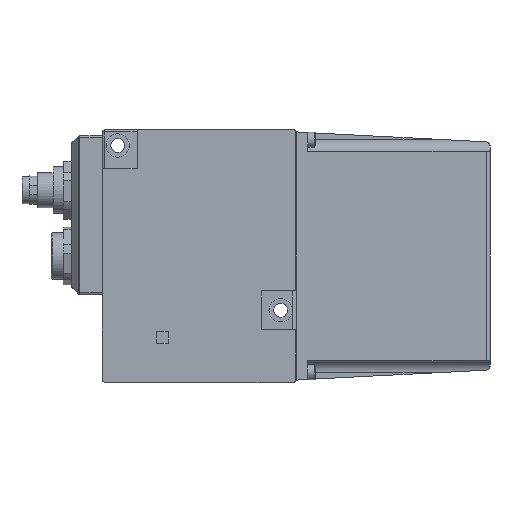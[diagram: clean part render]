
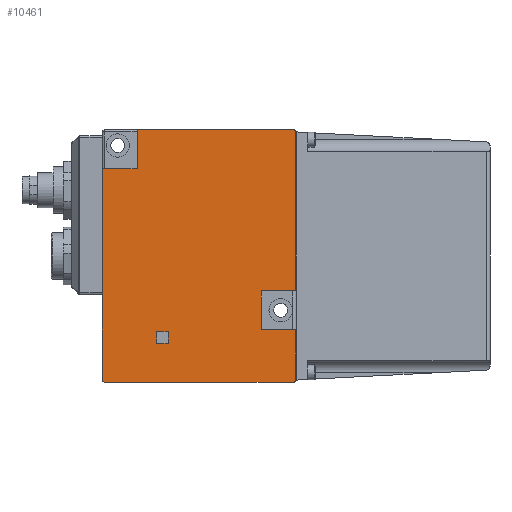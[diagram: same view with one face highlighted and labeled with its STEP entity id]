
A CAD part, front view. The second image highlights one B-rep face of the part: STEP entity #10461.
In plain terms, the highlighted planar face has unit normal (0, -1, 0).
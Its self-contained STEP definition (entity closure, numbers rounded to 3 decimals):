
#31 = VERTEX_POINT ( 'NONE', #6399 ) ;
#185 = EDGE_LOOP ( 'NONE', ( #850, #852, #854, #856, #858, #860, #329, #331, #333, #335, #337, #339, #341 ) ) ;
#187 = EDGE_LOOP ( 'NONE', ( #343, #345, #347, #349 ) ) ;
#329 = ORIENTED_EDGE ( 'NONE', *, *, #6450, .F. ) ;
#331 = ORIENTED_EDGE ( 'NONE', *, *, #6453, .T. ) ;
#333 = ORIENTED_EDGE ( 'NONE', *, *, #6456, .F. ) ;
#335 = ORIENTED_EDGE ( 'NONE', *, *, #6457, .T. ) ;
#337 = ORIENTED_EDGE ( 'NONE', *, *, #6461, .T. ) ;
#339 = ORIENTED_EDGE ( 'NONE', *, *, #6463, .F. ) ;
#341 = ORIENTED_EDGE ( 'NONE', *, *, #6467, .F. ) ;
#343 = ORIENTED_EDGE ( 'NONE', *, *, #6473, .F. ) ;
#345 = ORIENTED_EDGE ( 'NONE', *, *, #6474, .F. ) ;
#347 = ORIENTED_EDGE ( 'NONE', *, *, #6476, .F. ) ;
#349 = ORIENTED_EDGE ( 'NONE', *, *, #6491, .F. ) ;
#546 = CARTESIAN_POINT ( 'NONE',  ( 0., 0., -10. ) ) ;
#850 = ORIENTED_EDGE ( 'NONE', *, *, #6381, .F. ) ;
#852 = ORIENTED_EDGE ( 'NONE', *, *, #6386, .T. ) ;
#854 = ORIENTED_EDGE ( 'NONE', *, *, #6427, .T. ) ;
#856 = ORIENTED_EDGE ( 'NONE', *, *, #6436, .F. ) ;
#858 = ORIENTED_EDGE ( 'NONE', *, *, #6447, .F. ) ;
#860 = ORIENTED_EDGE ( 'NONE', *, *, #6449, .F. ) ;
#1654 = FACE_OUTER_BOUND ( 'NONE', #185, .T. ) ;
#1655 = FACE_BOUND ( 'NONE', #187, .T. ) ;
#2870 = CARTESIAN_POINT ( 'NONE',  ( 49.5, 0., -65. ) ) ;
#2872 = CARTESIAN_POINT ( 'NONE',  ( 49.866, 0., -41.5 ) ) ;
#3100 = CARTESIAN_POINT ( 'NONE',  ( 50., 0., -41.5 ) ) ;
#3101 = DIRECTION ( 'NONE',  ( -1., 0., 0. ) ) ;
#3102 = CARTESIAN_POINT ( 'NONE',  ( 49.866, 0., -41.5 ) ) ;
#3103 = DIRECTION ( 'NONE',  ( 0., 0., 1. ) ) ;
#3104 = CARTESIAN_POINT ( 'NONE',  ( 49.5, 0., -0.5 ) ) ;
#3105 = DIRECTION ( 'NONE',  ( 0., -1., 0. ) ) ;
#3106 = DIRECTION ( 'NONE',  ( 0., 0., -1. ) ) ;
#3107 = CARTESIAN_POINT ( 'NONE',  ( 0., 0., 0. ) ) ;
#3108 = DIRECTION ( 'NONE',  ( 1., 0., 0. ) ) ;
#3109 = CARTESIAN_POINT ( 'NONE',  ( 9., 0., 0. ) ) ;
#3110 = DIRECTION ( 'NONE',  ( 0., 0., 1. ) ) ;
#3111 = CARTESIAN_POINT ( 'NONE',  ( 0., 0., -10. ) ) ;
#3112 = DIRECTION ( 'NONE',  ( 1., 0., 0. ) ) ;
#3113 = CARTESIAN_POINT ( 'NONE',  ( 0., 0., 0. ) ) ;
#3114 = DIRECTION ( 'NONE',  ( 0., 0., 1. ) ) ;
#3115 = CARTESIAN_POINT ( 'NONE',  ( 0.5, 0., -64.5 ) ) ;
#3116 = DIRECTION ( 'NONE',  ( 0., -1., 0. ) ) ;
#3117 = DIRECTION ( 'NONE',  ( 0., 0., -1. ) ) ;
#3118 = CARTESIAN_POINT ( 'NONE',  ( 0., 0., -65. ) ) ;
#3119 = DIRECTION ( 'NONE',  ( -1., 0., 0. ) ) ;
#3120 = CARTESIAN_POINT ( 'NONE',  ( 49.5, 0., -64.5 ) ) ;
#3121 = DIRECTION ( 'NONE',  ( 0., -1., 0. ) ) ;
#3122 = DIRECTION ( 'NONE',  ( 0., 0., -1. ) ) ;
#3123 = CARTESIAN_POINT ( 'NONE',  ( 49.866, 0., -64.841 ) ) ;
#3124 = DIRECTION ( 'NONE',  ( 0., 0., 1. ) ) ;
#3125 = CARTESIAN_POINT ( 'NONE',  ( 50., 0., -51.5 ) ) ;
#3126 = DIRECTION ( 'NONE',  ( 1., 0., 0. ) ) ;
#3127 = CARTESIAN_POINT ( 'NONE',  ( 41., 0., -41.5 ) ) ;
#3128 = DIRECTION ( 'NONE',  ( 0., 0., -1. ) ) ;
#3129 = CARTESIAN_POINT ( 'NONE',  ( 14., 0., -55. ) ) ;
#3130 = DIRECTION ( 'NONE',  ( 1., 0., 0. ) ) ;
#3131 = CARTESIAN_POINT ( 'NONE',  ( 14., 0., -52. ) ) ;
#3132 = DIRECTION ( 'NONE',  ( 0., 0., -1. ) ) ;
#3133 = CARTESIAN_POINT ( 'NONE',  ( 14., 0., -52. ) ) ;
#3134 = DIRECTION ( 'NONE',  ( -1., 0., 0. ) ) ;
#3135 = CARTESIAN_POINT ( 'NONE',  ( 17., 0., -52. ) ) ;
#3136 = DIRECTION ( 'NONE',  ( 0., 0., 1. ) ) ;
#5623 = AXIS2_PLACEMENT_3D ( 'NONE', #3104, #3105, #3106 ) ;
#5624 = AXIS2_PLACEMENT_3D ( 'NONE', #3115, #3116, #3117 ) ;
#5625 = AXIS2_PLACEMENT_3D ( 'NONE', #3120, #3121, #3122 ) ;
#5943 = AXIS2_PLACEMENT_3D ( 'NONE', #13845, #13846, #13847 ) ;
#6154 = VERTEX_POINT ( 'NONE', #2870 ) ;
#6156 = VERTEX_POINT ( 'NONE', #2872 ) ;
#6381 = EDGE_CURVE ( '������39', #6156, #14482, #8612, .T. ) ;
#6386 = EDGE_CURVE ( '������17', #6156, #14476, #8615, .T. ) ;
#6399 = CARTESIAN_POINT ( 'NONE',  ( 14., 0., -55. ) ) ;
#6427 = EDGE_CURVE ( 'NONE', #14476, #14464, #8618, .T. ) ;
#6436 = EDGE_CURVE ( 'NONE', #14435, #14464, #8617, .T. ) ;
#6447 = EDGE_CURVE ( '������1', #12293, #14435, #8620, .T. ) ;
#6449 = EDGE_CURVE ( '������48', #9432, #12293, #8622, .T. ) ;
#6450 = EDGE_CURVE ( 'NONE', #14444, #9432, #8624, .T. ) ;
#6453 = EDGE_CURVE ( 'NONE', #14444, #14456, #8627, .T. ) ;
#6456 = EDGE_CURVE ( '������85', #6154, #14456, #8626, .T. ) ;
#6457 = EDGE_CURVE ( 'NONE', #6154, #14466, #8630, .T. ) ;
#6461 = EDGE_CURVE ( '������100', #14466, #14479, #8629, .T. ) ;
#6463 = EDGE_CURVE ( '������45', #14467, #14479, #8632, .T. ) ;
#6467 = EDGE_CURVE ( '������13', #14482, #14467, #8634, .T. ) ;
#6473 = EDGE_CURVE ( 'NONE', #31, #14511, #8636, .T. ) ;
#6474 = EDGE_CURVE ( 'NONE', #12571, #31, #8638, .T. ) ;
#6476 = EDGE_CURVE ( 'NONE', #12300, #12571, #8640, .T. ) ;
#6491 = EDGE_CURVE ( 'NONE', #14511, #12300, #8642, .T. ) ;
#7387 = CARTESIAN_POINT ( 'NONE',  ( 9., 0., -10. ) ) ;
#7394 = CARTESIAN_POINT ( 'NONE',  ( 17., 0., -52. ) ) ;
#7529 = CARTESIAN_POINT ( 'NONE',  ( 14., 0., -52. ) ) ;
#7567 = CARTESIAN_POINT ( 'NONE',  ( 9., 0., 0. ) ) ;
#7576 = CARTESIAN_POINT ( 'NONE',  ( 0., 0., -64.5 ) ) ;
#7588 = CARTESIAN_POINT ( 'NONE',  ( 0.5, 0., -65. ) ) ;
#7596 = CARTESIAN_POINT ( 'NONE',  ( 49.5, 0., 0. ) ) ;
#7598 = CARTESIAN_POINT ( 'NONE',  ( 49.866, 0., -64.841 ) ) ;
#7599 = CARTESIAN_POINT ( 'NONE',  ( 41., 0., -51.5 ) ) ;
#7607 = CARTESIAN_POINT ( 'NONE',  ( 49.866, 0., -0.159 ) ) ;
#7610 = CARTESIAN_POINT ( 'NONE',  ( 49.866, 0., -51.5 ) ) ;
#7613 = CARTESIAN_POINT ( 'NONE',  ( 41., 0., -41.5 ) ) ;
#7642 = CARTESIAN_POINT ( 'NONE',  ( 17., 0., -55. ) ) ;
#8612 = LINE ( 'NONE', #3100, #8614 ) ;
#8614 = VECTOR ( 'NONE', #3101, 1000. ) ;
#8615 = LINE ( 'NONE', #3102, #8616 ) ;
#8616 = VECTOR ( 'NONE', #3103, 1000. ) ;
#8617 = LINE ( 'NONE', #3107, #8619 ) ;
#8618 = CIRCLE ( 'NONE', #5623, 0.5 ) ;
#8619 = VECTOR ( 'NONE', #3108, 1000. ) ;
#8620 = LINE ( 'NONE', #3109, #8621 ) ;
#8621 = VECTOR ( 'NONE', #3110, 1000. ) ;
#8622 = LINE ( 'NONE', #3111, #8623 ) ;
#8623 = VECTOR ( 'NONE', #3112, 1000. ) ;
#8624 = LINE ( 'NONE', #3113, #8625 ) ;
#8625 = VECTOR ( 'NONE', #3114, 1000. ) ;
#8626 = LINE ( 'NONE', #3118, #8628 ) ;
#8627 = CIRCLE ( 'NONE', #5624, 0.5 ) ;
#8628 = VECTOR ( 'NONE', #3119, 1000. ) ;
#8629 = LINE ( 'NONE', #3123, #8631 ) ;
#8630 = CIRCLE ( 'NONE', #5625, 0.5 ) ;
#8631 = VECTOR ( 'NONE', #3124, 1000. ) ;
#8632 = LINE ( 'NONE', #3125, #8633 ) ;
#8633 = VECTOR ( 'NONE', #3126, 1000. ) ;
#8634 = LINE ( 'NONE', #3127, #8635 ) ;
#8635 = VECTOR ( 'NONE', #3128, 1000. ) ;
#8636 = LINE ( 'NONE', #3129, #8637 ) ;
#8637 = VECTOR ( 'NONE', #3130, 1000. ) ;
#8638 = LINE ( 'NONE', #3131, #8639 ) ;
#8639 = VECTOR ( 'NONE', #3132, 1000. ) ;
#8640 = LINE ( 'NONE', #3133, #8641 ) ;
#8641 = VECTOR ( 'NONE', #3134, 1000. ) ;
#8642 = LINE ( 'NONE', #3135, #8643 ) ;
#8643 = VECTOR ( 'NONE', #3136, 1000. ) ;
#9432 = VERTEX_POINT ( 'NONE', #546 ) ;
#10461 = ADVANCED_FACE ( '�����12', ( #1654, #1655 ), #13844, .T. ) ;
#12293 = VERTEX_POINT ( 'NONE', #7387 ) ;
#12300 = VERTEX_POINT ( 'NONE', #7394 ) ;
#12571 = VERTEX_POINT ( 'NONE', #7529 ) ;
#13844 = PLANE ( 'NONE',  #5943 ) ;
#13845 = CARTESIAN_POINT ( 'NONE',  ( 0., 0., -65. ) ) ;
#13846 = DIRECTION ( 'NONE',  ( 0., -1., 0. ) ) ;
#13847 = DIRECTION ( 'NONE',  ( 0., 0., -1. ) ) ;
#14435 = VERTEX_POINT ( 'NONE', #7567 ) ;
#14444 = VERTEX_POINT ( 'NONE', #7576 ) ;
#14456 = VERTEX_POINT ( 'NONE', #7588 ) ;
#14464 = VERTEX_POINT ( 'NONE', #7596 ) ;
#14466 = VERTEX_POINT ( 'NONE', #7598 ) ;
#14467 = VERTEX_POINT ( 'NONE', #7599 ) ;
#14476 = VERTEX_POINT ( 'NONE', #7607 ) ;
#14479 = VERTEX_POINT ( 'NONE', #7610 ) ;
#14482 = VERTEX_POINT ( 'NONE', #7613 ) ;
#14511 = VERTEX_POINT ( 'NONE', #7642 ) ;
